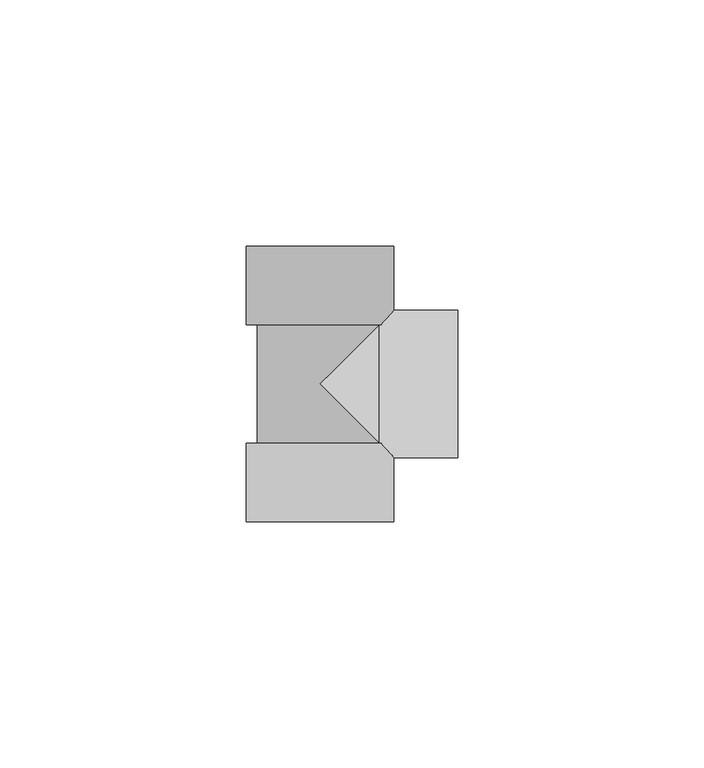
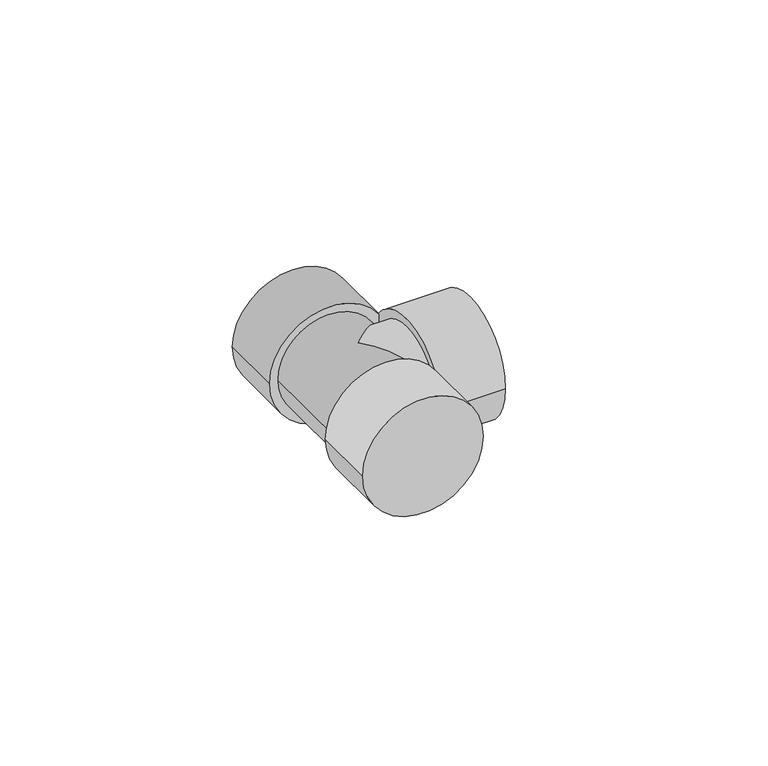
"""IFC4 building model written with IfcOpenShell, lengths in millimetres: pipe fitting geometry, 01011003 : Tes 90º."""

import ifcopenshell
import ifcopenshell.guid

model = None  # the IFC model being written
_history = None  # IfcOwnerHistory: only IFC2X3 demands one
_inside = {}  # id of a spatial element -> (the spatial element, [elements in it])
_under = {}  # id of a project, library or spatial element -> (it, [spatial elements below it])
_declared = {}  # id of a project -> (the project, [libraries it declares])
_typed = {}  # id of a type object -> (the type object, [elements of that type])
_made_of = {}  # id of a material, layer set ... -> (it, [elements and type objects made of it])


def new_model(schema):
    """Start an empty IFC model of exactly this schema.

    Asked for "IFC4X3", IfcOpenShell would pick the latest addendum, in which some entities
    have other attributes; the version numbers below select the first issue.
    IFC2X3 requires an IfcOwnerHistory on every rooted entity: one is made here for all.
    """
    global model, _history
    if schema == "IFC4X3":
        model = ifcopenshell.file(schema_version=(4, 3, 0, 0))
    else:
        model = ifcopenshell.file(schema=schema)
    _inside.clear()
    _under.clear()
    _declared.clear()
    _typed.clear()
    _made_of.clear()
    _history = None
    if model.schema == "IFC2X3":
        org = make("IfcOrganization", Name="unknown")
        user = make(
            "IfcPersonAndOrganization",
            ThePerson=make("IfcPerson", FamilyName="unknown"),
            TheOrganization=org,
        )
        app = make(
            "IfcApplication",
            ApplicationDeveloper=org,
            Version="unknown",
            ApplicationFullName="unknown",
            ApplicationIdentifier="unknown",
        )
        _history = make(
            "IfcOwnerHistory",
            OwningUser=user,
            OwningApplication=app,
            ChangeAction="ADDED",
            CreationDate=0,
        )
    return model


def make(cls, **values):
    """One entity of the class cls with the attributes given. An attribute that is None is left unset."""
    return model.create_entity(
        cls, **{name: value for name, value in values.items() if value is not None}
    )


def rooted(cls, **values):
    """An entity with a GlobalId (a new one), such as an element, a storey or a relation."""
    return make(cls, GlobalId=ifcopenshell.guid.new(), OwnerHistory=_history, **values)


def si_unit(unit_type, name, prefix=None):
    """IfcSIUnit, for example si_unit("LENGTHUNIT", "METRE", prefix="MILLI")."""
    return make("IfcSIUnit", UnitType=unit_type, Prefix=prefix, Name=name)


def assignment(units):
    """IfcUnitAssignment: the units of a project."""
    return None if units is None else make("IfcUnitAssignment", Units=units)


def point(xyz):
    """IfcCartesianPoint."""
    return None if xyz is None else make("IfcCartesianPoint", Coordinates=xyz)


def direction(xyz):
    """IfcDirection."""
    return None if xyz is None else make("IfcDirection", DirectionRatios=xyz)


def frame(location, z_axis=None, x_axis=None):
    """IfcAxis2Placement3D, a coordinate frame: its origin and axes. An axis left out is left unset."""
    return make(
        "IfcAxis2Placement3D",
        Location=point(location),
        Axis=direction(z_axis),
        RefDirection=direction(x_axis),
    )


def frame_2d(location, x_axis=None):
    """IfcAxis2Placement2D, a coordinate frame in the plane: its origin and x axis."""
    return make(
        "IfcAxis2Placement2D", Location=point(location), RefDirection=direction(x_axis)
    )


def origin():
    """The frame at (0, 0, 0) with its axes left unset."""
    return frame((0.0, 0.0, 0.0))


def origin_2d():
    """The frame at (0, 0) in the plane with its x axis left unset."""
    return frame_2d((0.0, 0.0))


def place(relative_to, where):
    """IfcLocalPlacement: puts the frame where relative to a parent placement (None: the world)."""
    return make(
        "IfcLocalPlacement", PlacementRelTo=relative_to, RelativePlacement=where
    )


def context(
    kind, dimensions, precision=None, world=None, true_north=None, identifier=None
):
    """IfcGeometricRepresentationContext, for example the 3D "Model" context."""
    return make(
        "IfcGeometricRepresentationContext",
        ContextIdentifier=identifier,
        ContextType=kind,
        CoordinateSpaceDimension=dimensions,
        Precision=precision,
        WorldCoordinateSystem=world,
        TrueNorth=true_north,
    )


def project(units=None, contexts=None):
    """IfcProject with its units and contexts."""
    return rooted(
        "IfcProject",
        Name="project",
        RepresentationContexts=contexts,
        UnitsInContext=assignment(units),
    )


def spatial(cls, under=None, at=None, **own):
    """A site, building, storey or space (cls), placed at a placement, below another one or the project."""
    s = rooted(cls, ObjectPlacement=at, **own)
    if under is not None:
        _under.setdefault(under.id(), (under, []))[1].append(s)
    return s


def circle_curve(where, radius):
    """IfcCircle in the frame where."""
    return make("IfcCircle", Position=where, Radius=radius)


def ellipse_curve(where, semi_axis1, semi_axis2):
    """IfcEllipse in the frame where."""
    return make(
        "IfcEllipse", Position=where, SemiAxis1=semi_axis1, SemiAxis2=semi_axis2
    )


def trimmed(basis, trim1, trim2, sense, master):
    """IfcTrimmedCurve: the piece of a basis curve between two trims."""
    return make(
        "IfcTrimmedCurve",
        BasisCurve=basis,
        Trim1=trim1,
        Trim2=trim2,
        SenseAgreement=sense,
        MasterRepresentation=master,
    )


def segment(curve, same_sense, transition):
    """IfcCompositeCurveSegment."""
    return make(
        "IfcCompositeCurveSegment",
        Transition=transition,
        SameSense=same_sense,
        ParentCurve=curve,
    )


def composite_curve(segments, self_intersect=None):
    """IfcCompositeCurve: segments joined end to end."""
    return make("IfcCompositeCurve", Segments=segments, SelfIntersect=self_intersect)


def outline(outer, holes=None, kind="AREA"):
    """IfcArbitraryClosedProfileDef: a profile drawn as a closed curve; with holes, ...WithVoids."""
    if holes is None:
        return make("IfcArbitraryClosedProfileDef", ProfileType=kind, OuterCurve=outer)
    return make(
        "IfcArbitraryProfileDefWithVoids",
        ProfileType=kind,
        OuterCurve=outer,
        InnerCurves=holes,
    )


def extrude(swept, where, along, depth):
    """IfcExtrudedAreaSolid: the profile swept, set in the frame where, extruded along a direction by depth."""
    return make(
        "IfcExtrudedAreaSolid",
        SweptArea=swept,
        Position=where,
        ExtrudedDirection=direction(along),
        Depth=depth,
    )


def shape(context_of_items, identifier, shape_type, items):
    """IfcShapeRepresentation: the items that make up one representation, for example the "Body"."""
    return make(
        "IfcShapeRepresentation",
        ContextOfItems=context_of_items,
        RepresentationIdentifier=identifier,
        RepresentationType=shape_type,
        Items=items,
    )


def source(mapping_origin, context_of_items, identifier, shape_type, items):
    """IfcRepresentationMap: a shape defined once, which mapped items show again and again."""
    return make(
        "IfcRepresentationMap",
        MappingOrigin=mapping_origin,
        MappedRepresentation=shape(context_of_items, identifier, shape_type, items),
    )


def transform(
    local_origin,
    x_axis=None,
    y_axis=None,
    z_axis=None,
    scale=None,
    scale2=None,
    scale3=None,
    uniform=True,
):
    """IfcCartesianTransformationOperator3D, or its non-uniform kind. x_axis, y_axis, z_axis: its Axis1, 2, 3."""
    if uniform:
        return make(
            "IfcCartesianTransformationOperator3D",
            Axis1=direction(x_axis),
            Axis2=direction(y_axis),
            LocalOrigin=point(local_origin),
            Scale=scale,
            Axis3=direction(z_axis),
        )
    return make(
        "IfcCartesianTransformationOperator3DnonUniform",
        Axis1=direction(x_axis),
        Axis2=direction(y_axis),
        LocalOrigin=point(local_origin),
        Scale=scale,
        Axis3=direction(z_axis),
        Scale2=scale2,
        Scale3=scale3,
    )


def mapped(mapping_source, mapping_target):
    """IfcMappedItem: shows the shape of a source again, moved by a transform."""
    return make(
        "IfcMappedItem", MappingSource=mapping_source, MappingTarget=mapping_target
    )


def made_of(thing, what):
    """Note that an element or type object is made of a material, layer set ...; save() writes the relation."""
    if what is not None:
        _made_of.setdefault(what.id(), (what, []))[1].append(thing)
    return thing


def element(
    cls,
    number,
    at=None,
    inside=None,
    cuts=None,
    type_object=None,
    material=None,
    context=None,
    identifier="Body",
    shape_type=None,
    held_by="IfcProductDefinitionShape",
    body=None,
    shapes=None,
    **own,
):
    """One element of the class cls, such as IfcWall. Its Tag is "e" and its number.

    at: its placement. inside: the storey or other place that contains it. cuts: it is an
    opening in that element (IfcRelVoidsElement). A single representation is given by context,
    identifier, shape_type and body (its items); several are given by shapes. held_by: the class
    of the entity that holds the representations. save() writes the other relations.
    """
    e = rooted(cls, Tag="e%d" % number, ObjectPlacement=at, **own)
    if body is not None:
        shapes = [shape(context, identifier, shape_type, body)]
    if shapes is not None:
        e.Representation = make(held_by, Representations=shapes)
    if inside is not None:
        _inside.setdefault(inside.id(), (inside, []))[1].append(e)
    if cuts is not None:
        rooted(
            "IfcRelVoidsElement", RelatingBuildingElement=cuts, RelatedOpeningElement=e
        )
    if type_object is not None:
        _typed.setdefault(type_object.id(), (type_object, []))[1].append(e)
    return made_of(e, material)


def aggregate(whole, parts):
    """IfcRelAggregates: a whole, such as a stair, and the parts it consists of."""
    return rooted("IfcRelAggregates", RelatingObject=whole, RelatedObjects=parts)


def save(model, path):
    """Write the relations noted so far, then the file.

    IfcRelAggregates (storeys below a building ...), IfcRelContainedInSpatialStructure (elements
    in a storey), IfcRelDefinesByType, IfcRelAssociatesMaterial and IfcRelDeclares: one each for
    every whole, place, type object, material and project.
    """
    for whole, parts in _under.values():
        aggregate(whole, parts)
    for where, things in _inside.values():
        rooted(
            "IfcRelContainedInSpatialStructure",
            RelatedElements=things,
            RelatingStructure=where,
        )
    for kind, things in _typed.values():
        rooted("IfcRelDefinesByType", RelatedObjects=things, RelatingType=kind)
    for what, things in _made_of.values():
        rooted("IfcRelAssociatesMaterial", RelatedObjects=things, RelatingMaterial=what)
    for by, libraries in _declared.values():
        rooted("IfcRelDeclares", RelatingContext=by, RelatedDefinitions=libraries)
    model.write(path)


def plane_surface(at):
    """IfcPlane: the flat surface through the origin of the frame at, square to its z axis."""
    return make("IfcPlane", Position=at)


def cylinder_surface(at, radius):
    """IfcCylindricalSurface: all points at the distance radius from the z axis of the frame at."""
    return make("IfcCylindricalSurface", Position=at, Radius=radius)


def advanced_brep(points, edges, surfaces, faces):
    """IfcAdvancedBrep: a solid bounded by faces that lie on surfaces and meet in shared edges.

    An edge is (start, end): straight between two places in points (the first is 0);
    or (start, end, curve); or (start, end, curve, False) where it runs against its curve.
    A face is (place in surfaces, loops), or (place, loops, False) where it looks against
    its surface's normal. A loop lists edges by number (the first is 1), with a minus sign
    where the edge is run from its end to its start. The first loop is the outer one.
    """
    corners = [point(p) for p in points]
    vertices = [make("IfcVertexPoint", VertexGeometry=c) for c in corners]
    made = []
    for start, end, *more in edges:
        made.append(
            make(
                "IfcEdgeCurve",
                EdgeStart=vertices[start],
                EdgeEnd=vertices[end],
                EdgeGeometry=more[0] if more else make("IfcPolyline", Points=[corners[start], corners[end]]),
                SameSense=more[1] if len(more) > 1 else True,
            )
        )
    hull = []
    for where, loops, *sense in faces:
        bounds = []
        for j, loop in enumerate(loops):
            ring = [make("IfcOrientedEdge", EdgeElement=made[abs(k) - 1], Orientation=k > 0) for k in loop]
            bounds.append(
                make(
                    "IfcFaceOuterBound" if j == 0 else "IfcFaceBound",
                    Bound=make("IfcEdgeLoop", EdgeList=ring),
                    Orientation=True,
                )
            )
        hull.append(make("IfcAdvancedFace", Bounds=bounds, FaceSurface=surfaces[where], SameSense=sense[0] if sense else True))
    return make("IfcAdvancedBrep", Outer=make("IfcClosedShell", CfsFaces=hull))


def pipe_fitting_e21eb6ab(model_context):
    return source(origin(), model_context, "Body", "SolidModel", [
        advanced_brep(
        [(-12.75, 14.0, 0.0), (12.75, 14.0, 0.0), (-12.75, -14.0, 0.0), (12.75, -14.0, 0.0), (12.75, -12.75, 0.0), (0.0, 0.0, 12.75), (12.75, 12.75, 0.0), (0.0, 0.0, -12.75), (14.0, 12.75, 0.0), (14.0, -12.75, 0.0)],
        [
            (0, 1, circle_curve(frame((0.0, 14.0, 0.0), z_axis=(0.0, 1.0, 0.0), x_axis=(1.0, 0.0, 0.0)), 12.75)),
            (1, 0, circle_curve(frame((0.0, 14.0, 0.0), z_axis=(0.0, 1.0, 0.0), x_axis=(1.0, 0.0, 0.0)), 12.75)),
            (2, 3, circle_curve(frame((0.0, -14.0, 0.0), z_axis=(0.0, -1.0, 0.0), x_axis=(1.0, 0.0, 0.0)), 12.75)),
            (3, 2, circle_curve(frame((0.0, -14.0, 0.0), z_axis=(0.0, -1.0, 0.0), x_axis=(1.0, 0.0, 0.0)), 12.75)),
            (0, 2),
            (3, 4),
            (4, 5, ellipse_curve(frame((0.0, 0.0, 0.0), z_axis=(-0.7071067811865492, -0.7071067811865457, 0.0), x_axis=(-0.7071067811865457, 0.7071067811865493, 0.0)), 18.0312229, 12.75)),
            (5, 6, ellipse_curve(frame((0.0, 0.0, 0.0), z_axis=(-0.7071067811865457, 0.7071067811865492, 0.0), x_axis=(0.7071067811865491, 0.7071067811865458, 0.0)), 18.0312229, 12.75)),
            (6, 1),
            (6, 7, ellipse_curve(frame((0.0, 0.0, 0.0), z_axis=(-0.7071067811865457, 0.7071067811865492, 0.0), x_axis=(0.7071067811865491, 0.7071067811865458, 0.0)), 18.0312229, 12.75)),
            (7, 4, ellipse_curve(frame((0.0, 0.0, 0.0), z_axis=(-0.7071067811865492, -0.7071067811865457, 0.0), x_axis=(-0.7071067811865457, 0.7071067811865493, 0.0)), 18.0312229, 12.75)),
            (8, 9, circle_curve(frame((14.0, 0.0, 0.0), z_axis=(1.0, 0.0, 0.0), x_axis=(0.0, -1.0, 0.0)), 12.75)),
            (9, 8, circle_curve(frame((14.0, 0.0, 0.0), z_axis=(1.0, 0.0, 0.0), x_axis=(0.0, -1.0, 0.0)), 12.75)),
            (8, 6),
            (4, 9),
        ],
        [
            plane_surface(frame((0.0, 14.0, 0.0), z_axis=(0.0, 1.0, 0.0), x_axis=(0.0, 0.0, 1.0))),
            plane_surface(frame((0.0, -14.0, 0.0), z_axis=(0.0, -1.0, 0.0), x_axis=(0.0, 0.0, 1.0))),
            cylinder_surface(frame((0.0, 14.0, 0.0), z_axis=(0.0, 1.0, 0.0), x_axis=(1.0, 0.0, 0.0)), 12.75),
            plane_surface(frame((14.0, 0.0, 0.0), z_axis=(1.0, 0.0, 0.0), x_axis=(0.0, 0.0, 1.0))),
            cylinder_surface(frame((14.0, 0.0, 0.0), z_axis=(1.0, 0.0, 0.0), x_axis=(0.0, -1.0, 0.0)), 12.75),
        ],
        [
            (0, [[1, 2]]),
            (1, [[3, 4]]),
            (2, [[-1, 5, -4, 6, 7, 8, 9]]),
            (2, [[-2, -9, 10, 11, -6, -3, -5]]),
            (3, [[12, 13]]),
            (4, [[-12, 14, -8, -7, 15]]),
            (4, [[-13, -15, -11, -10, -14]]),
        ],
    ),
        extrude(outline(composite_curve([segment(trimmed(circle_curve(origin_2d(), 15.0), [point((0.0, -15.0))], [point((0.0, 15.0))], False, "CARTESIAN"), True, "CONTINUOUS"), segment(trimmed(circle_curve(origin_2d(), 15.0), [point((0.0, 15.0))], [point((0.0, -15.0))], False, "CARTESIAN"), True, "CONTINUOUS")], self_intersect=False)), frame((0.0, 12.0, 0.0), z_axis=(0.0, 1.0, 0.0), x_axis=(0.0, 0.0, 1.0)), (0.0, 0.0, 1.0), 16.0),
        extrude(outline(composite_curve([segment(trimmed(circle_curve(origin_2d(), 15.0), [point((0.0, 15.0))], [point((0.0, -15.0))], False, "CARTESIAN"), True, "CONTINUOUS"), segment(trimmed(circle_curve(origin_2d(), 15.0), [point((0.0, -15.0))], [point((0.0, 15.0))], False, "CARTESIAN"), True, "CONTINUOUS")], self_intersect=False)), frame((0.0, -28.0, 0.0), z_axis=(0.0, 1.0, 0.0), x_axis=(0.0, 0.0, 1.0)), (0.0, 0.0, 1.0), 16.0),
        extrude(outline(composite_curve([segment(trimmed(circle_curve(origin_2d(), 15.0), [point((15.0, 0.0))], [point((-15.0, 0.0))], False, "CARTESIAN"), True, "CONTINUOUS"), segment(trimmed(circle_curve(origin_2d(), 15.0), [point((-15.0, 0.0))], [point((15.0, 0.0))], False, "CARTESIAN"), True, "CONTINUOUS")], self_intersect=False)), frame((12.0, 0.0, 0.0), z_axis=(1.0, 0.0, 0.0), x_axis=(0.0, 1.0, 0.0)), (0.0, 0.0, 1.0), 16.0),
    ])


if __name__ == "__main__":
    model = new_model("IFC4")
    model_context = context("Model", 3, world=origin())
    ifc_project = project(units=[si_unit("LENGTHUNIT", "METRE", prefix="MILLI")], contexts=[model_context])
    site = spatial("IfcSite", under=ifc_project)
    building = spatial("IfcBuilding", under=site)
    placement = place(None, origin())
    pipe_fitting_shape = pipe_fitting_e21eb6ab(model_context)
    element("IfcPipeFitting", 1, ObjectType="01011003 : Tes 90º", at=placement, inside=building, context=model_context, shape_type="MappedRepresentation", body=[
        mapped(pipe_fitting_shape, transform((0.0, 0.0, 0.0), x_axis=(1.0, 0.0, 0.0), y_axis=(0.0, 1.0, 0.0), z_axis=(0.0, 0.0, 1.0))),
    ])
    save(model, "model.ifc")
